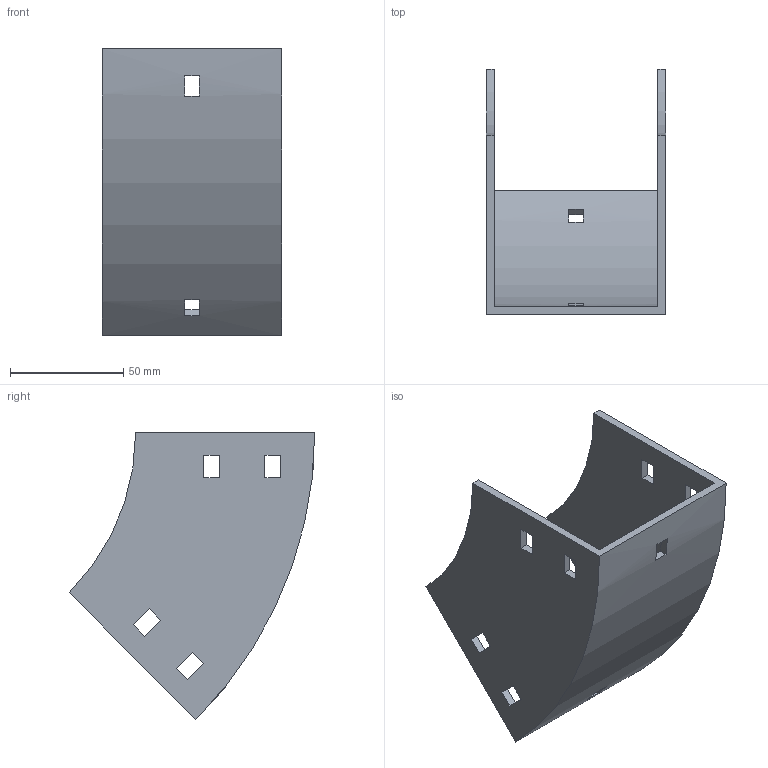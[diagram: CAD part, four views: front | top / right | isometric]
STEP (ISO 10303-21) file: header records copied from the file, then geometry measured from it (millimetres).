
FILE_DESCRIPTION (( 'STEP AP214' ), '1' );
FILE_NAME ('31B1C075.step', '2025-02-21T09:47:30', ( '' ), ( '' ), 'SwSTEP 2.0', 'SolidWorks 2023', '' );
FILE_SCHEMA (( 'AUTOMOTIVE_DESIGN' ));
Length unit declared in the file: millimetre
Products named in the file (1): 31B1C075
Bounding box: 79 x 108.29 x 126.57 mm (x, y, z)
Volume: 93298.4 mm3; surface area: 56652.8 mm2
Topology: 1 solids, 1 shells, 50 faces, 144 edges, 96 vertices
Faces by surface type: plane 46, cylinder 4
Entity records: 1687 total; most frequent: CARTESIAN_POINT 291, ORIENTED_EDGE 288, DIRECTION 262, EDGE_CURVE 144, LINE 128, VECTOR 128, VERTEX_POINT 96, EDGE_LOOP 70
